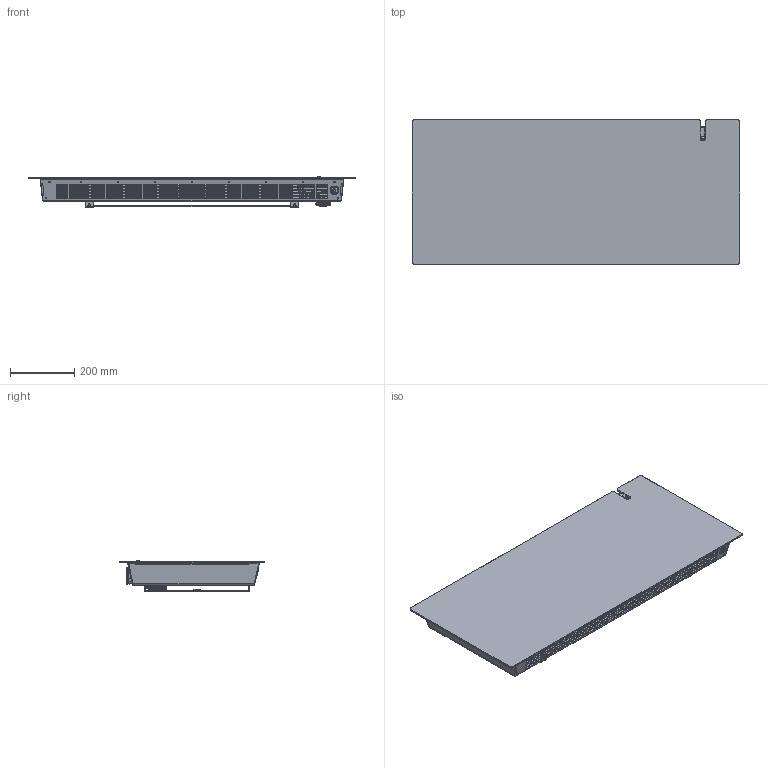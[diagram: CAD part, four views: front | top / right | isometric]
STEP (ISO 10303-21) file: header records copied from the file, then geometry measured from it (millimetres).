
FILE_DESCRIPTION(('FreeCAD Model'),'2;1');
FILE_NAME('Open CASCADE Shape Model','2026-06-03T15:04:28',(''),(''), 'Open CASCADE STEP processor 7.8','FreeCAD','Unknown');
FILE_SCHEMA(('AUTOMOTIVE_DESIGN { 1 0 10303 214 1 1 1 1 }'));
Length unit declared in the file: millimetre
Products named in the file (22): Unnamed; WFB_COPERCHIO; RMV_POSTERIORE-1500W; RMV_GR-SCATOLA-COMANDI_ASM; RMV_FONDO-SCATOLA-COMANDI; RMV_COPERCHIO-SCATOLA-COMANDI; RMV_SUPPORTO-SONDA; RMV_GR-FRONTALE_VETRO_1500W_ASM; RMV_VETRO_1500W; RMV_SUPPORTO-PIR-VETRO; RMV_BARRA-FISSAGGIO-SUP_1500W; RMV_GR-PIR-BOARD_ASM; RMV_PIR-BOARD; RMV_GR-DISPLAY_ASM; RMV_PROTEZIONE-TRASPARE-DISPLAY; RMV_COPERTURA-SUPERIORE-COMANDI; SOLID015; RMV_GR-SUPPORTO-MURALE_15-20_ASM; KLI_TRAVERSA-SUPPORTO_MAX; RMV_GR-ASTA-SUPPORTO-MURALE_ASM; RMV_STAFFA-SUPPORTO-MURALE; RMV_GR-ASTA-SUPPORTO-MURALE_ASM001
Assembly tree (22 placements, depth 4):
  Unnamed
    WFB_COPERCHIO
    RMV_POSTERIORE-1500W
    RMV_GR-SCATOLA-COMANDI_ASM
      RMV_FONDO-SCATOLA-COMANDI
      RMV_COPERCHIO-SCATOLA-COMANDI
    RMV_SUPPORTO-SONDA
    RMV_GR-FRONTALE_VETRO_1500W_ASM
      RMV_VETRO_1500W
      RMV_SUPPORTO-PIR-VETRO
      RMV_BARRA-FISSAGGIO-SUP_1500W
    RMV_GR-PIR-BOARD_ASM
      RMV_PIR-BOARD
    RMV_GR-DISPLAY_ASM
      RMV_PROTEZIONE-TRASPARE-DISPLAY
    RMV_COPERTURA-SUPERIORE-COMANDI
      SOLID015
    RMV_GR-SUPPORTO-MURALE_15-20_ASM
      KLI_TRAVERSA-SUPPORTO_MAX
      RMV_GR-ASTA-SUPPORTO-MURALE_ASM
        RMV_STAFFA-SUPPORTO-MURALE
      RMV_GR-ASTA-SUPPORTO-MURALE_ASM001
        RMV_STAFFA-SUPPORTO-MURALE
Bounding box: 1020 x 450 x 97.1 mm (x, y, z)
Volume: 2952678.1 mm3; surface area: 2329009.2 mm2
Topology: 14 solids, 14 shells, 5506 faces, 15114 edges, 9673 vertices
Faces by surface type: plane 3532, cylinder 1021, bspline 487, cone 296, torus 128, sphere 30, extrusion 12
Entity records: 207040 total; most frequent: CARTESIAN_POINT 76482, ORIENTED_EDGE 29634, DIRECTION 22867, EDGE_CURVE 14817, VERTEX_POINT 9492, VECTOR 9193, LINE 9181, AXIS2_PLACEMENT_3D 6837
